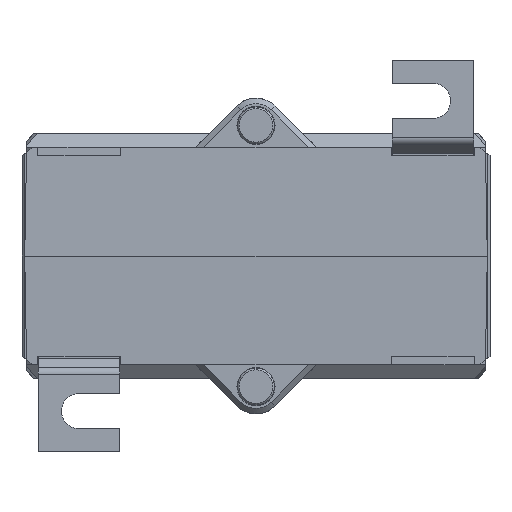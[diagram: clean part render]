
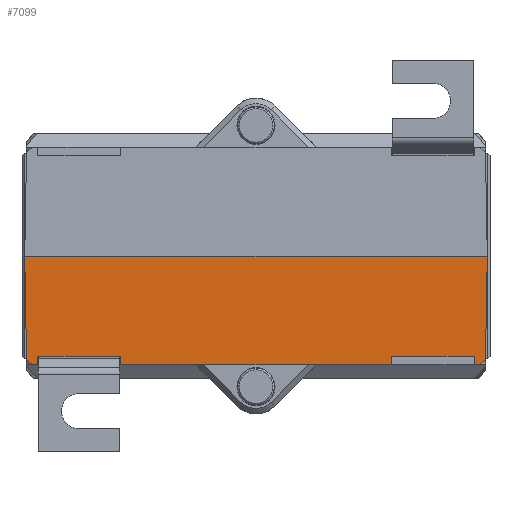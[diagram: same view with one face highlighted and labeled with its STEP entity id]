
A CAD part, front view. The second image highlights one B-rep face of the part: STEP entity #7099.
In plain terms, the highlighted planar face has unit normal (0, -1, -0.018) as drawn and (0, -1, 0.017) by its records, which use the part's own axes.
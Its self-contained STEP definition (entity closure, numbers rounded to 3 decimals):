
#5634 = VERTEX_POINT ( 'NONE', #27852 ) ;
#5694 = EDGE_CURVE ( 'NONE', #5699, #5634, #28081, .T. ) ;
#5699 = VERTEX_POINT ( 'NONE', #27846 ) ;
#6303 = VERTEX_POINT ( 'NONE', #30248 ) ;
#6317 = VERTEX_POINT ( 'NONE', #30269 ) ;
#6321 = EDGE_CURVE ( 'NONE', #6303, #5634, #30392, .T. ) ;
#6359 = EDGE_CURVE ( 'NONE', #6317, #5699, #30517, .T. ) ;
#6981 = VERTEX_POINT ( 'NONE', #32678 ) ;
#7044 = VERTEX_POINT ( 'NONE', #32774 ) ;
#7045 = EDGE_CURVE ( 'NONE', #7054, #7044, #32827, .T. ) ;
#7054 = VERTEX_POINT ( 'NONE', #32838 ) ;
#7057 = EDGE_CURVE ( 'NONE', #6981, #7059, #32829, .T. ) ;
#7059 = VERTEX_POINT ( 'NONE', #32878 ) ;
#7071 = ORIENTED_EDGE ( 'NONE', *, *, #7075, .F. ) ;
#7072 = ORIENTED_EDGE ( 'NONE', *, *, #7160, .F. ) ;
#7073 = EDGE_CURVE ( 'NONE', #7157, #7159, #32848, .T. ) ;
#7075 = EDGE_CURVE ( 'NONE', #7059, #7159, #32914, .T. ) ;
#7079 = ORIENTED_EDGE ( 'NONE', *, *, #7057, .F. ) ;
#7080 = ORIENTED_EDGE ( 'NONE', *, *, #6321, .F. ) ;
#7082 = ORIENTED_EDGE ( 'NONE', *, *, #7090, .F. ) ;
#7083 = EDGE_CURVE ( 'NONE', #7110, #7112, #32900, .T. ) ;
#7084 = ORIENTED_EDGE ( 'NONE', *, *, #6359, .T. ) ;
#7086 = EDGE_CURVE ( 'NONE', #7103, #6317, #32888, .T. ) ;
#7087 = ORIENTED_EDGE ( 'NONE', *, *, #7086, .T. ) ;
#7088 = ORIENTED_EDGE ( 'NONE', *, *, #7156, .T. ) ;
#7089 = EDGE_CURVE ( 'NONE', #7103, #7110, #32886, .T. ) ;
#7090 = EDGE_CURVE ( 'NONE', #7112, #7116, #32915, .T. ) ;
#7091 = ORIENTED_EDGE ( 'NONE', *, *, #7097, .F. ) ;
#7097 = EDGE_CURVE ( 'NONE', #7116, #6981, #32889, .T. ) ;
#7098 = ORIENTED_EDGE ( 'NONE', *, *, #7089, .F. ) ;
#7099 = ADVANCED_FACE ( 'NONE', ( #32943 ), #32952, .T. ) ;
#7100 = ORIENTED_EDGE ( 'NONE', *, *, #7083, .F. ) ;
#7101 = EDGE_LOOP ( 'NONE', ( #7091, #7082, #7100, #7098, #7087, #7084, #7155, #7080, #7088, #7154, #7072, #7158, #7071, #7079 ) ) ;
#7103 = VERTEX_POINT ( 'NONE', #32953 ) ;
#7110 = VERTEX_POINT ( 'NONE', #32926 ) ;
#7112 = VERTEX_POINT ( 'NONE', #32996 ) ;
#7116 = VERTEX_POINT ( 'NONE', #32989 ) ;
#7154 = ORIENTED_EDGE ( 'NONE', *, *, #7045, .F. ) ;
#7155 = ORIENTED_EDGE ( 'NONE', *, *, #5694, .T. ) ;
#7156 = EDGE_CURVE ( 'NONE', #6303, #7044, #33096, .T. ) ;
#7157 = VERTEX_POINT ( 'NONE', #33091 ) ;
#7158 = ORIENTED_EDGE ( 'NONE', *, *, #7073, .T. ) ;
#7159 = VERTEX_POINT ( 'NONE', #33089 ) ;
#7160 = EDGE_CURVE ( 'NONE', #7157, #7054, #33083, .T. ) ;
#27846 = CARTESIAN_POINT ( 'NONE',  ( -42.5, -43.25, 0. ) ) ;
#27852 = CARTESIAN_POINT ( 'NONE',  ( 42.5, -43.25, 0. ) ) ;
#28081 = LINE ( 'NONE', #28095, #28094 ) ;
#28093 = DIRECTION ( 'NONE',  ( 1., 0., 0. ) ) ;
#28094 = VECTOR ( 'NONE', #28093, 1000. ) ;
#28095 = CARTESIAN_POINT ( 'NONE',  ( -42.5, -43.25, 0. ) ) ;
#30248 = CARTESIAN_POINT ( 'NONE',  ( 42.168, -42.918, 19. ) ) ;
#30269 = CARTESIAN_POINT ( 'NONE',  ( -42.168, -42.918, 19. ) ) ;
#30356 = DIRECTION ( 'NONE',  ( 0.017, -0.017, -1. ) ) ;
#30358 = VECTOR ( 'NONE', #30356, 1000. ) ;
#30391 = CARTESIAN_POINT ( 'NONE',  ( 42.47, -43.22, 1.71 ) ) ;
#30392 = LINE ( 'NONE', #30391, #30358 ) ;
#30517 = LINE ( 'NONE', #30606, #30605 ) ;
#30604 = DIRECTION ( 'NONE',  ( -0.017, -0.017, -1. ) ) ;
#30605 = VECTOR ( 'NONE', #30604, 1000. ) ;
#30606 = CARTESIAN_POINT ( 'NONE',  ( -42.5, -43.25, 0. ) ) ;
#32678 = CARTESIAN_POINT ( 'NONE',  ( -24.878, -42.901, 20. ) ) ;
#32774 = CARTESIAN_POINT ( 'NONE',  ( 41.133, -42.901, 20. ) ) ;
#32814 = VECTOR ( 'NONE', #32880, 1000. ) ;
#32815 = CARTESIAN_POINT ( 'NONE',  ( -42.5, -42.901, 20. ) ) ;
#32821 = DIRECTION ( 'NONE',  ( 1., 0., 0. ) ) ;
#32822 = VECTOR ( 'NONE', #32821, 1000. ) ;
#32823 = CARTESIAN_POINT ( 'NONE',  ( -42.5, -42.901, 20. ) ) ;
#32827 = LINE ( 'NONE', #32823, #32822 ) ;
#32829 = LINE ( 'NONE', #32815, #32814 ) ;
#32838 = CARTESIAN_POINT ( 'NONE',  ( 40.122, -42.901, 20. ) ) ;
#32847 = CARTESIAN_POINT ( 'NONE',  ( -42.5, -42.929, 18.4 ) ) ;
#32848 = LINE ( 'NONE', #32847, #32917 ) ;
#32878 = CARTESIAN_POINT ( 'NONE',  ( 24.878, -42.901, 20. ) ) ;
#32880 = DIRECTION ( 'NONE',  ( 1., 0., 0. ) ) ;
#32881 = CARTESIAN_POINT ( 'NONE',  ( -42.5, -42.929, 18.4 ) ) ;
#32882 = CARTESIAN_POINT ( 'NONE',  ( -42.5, -42.901, 20. ) ) ;
#32883 = DIRECTION ( 'NONE',  ( -0.719, -0.012, -0.695 ) ) ;
#32884 = VECTOR ( 'NONE', #32883, 1000. ) ;
#32885 = CARTESIAN_POINT ( 'NONE',  ( -40.281, -42.887, 20.822 ) ) ;
#32886 = LINE ( 'NONE', #32882, #32904 ) ;
#32888 = LINE ( 'NONE', #32885, #32884 ) ;
#32889 = LINE ( 'NONE', #32942, #32941 ) ;
#32890 = DIRECTION ( 'NONE',  ( 0.009, -0.017, -1. ) ) ;
#32891 = VECTOR ( 'NONE', #32890, 1000. ) ;
#32899 = CARTESIAN_POINT ( 'NONE',  ( -39.948, -43.25, 0.022 ) ) ;
#32900 = LINE ( 'NONE', #32899, #32891 ) ;
#32903 = DIRECTION ( 'NONE',  ( 1., 0., 0. ) ) ;
#32904 = VECTOR ( 'NONE', #32903, 1000. ) ;
#32911 = DIRECTION ( 'NONE',  ( 0.009, -0.017, -1. ) ) ;
#32912 = VECTOR ( 'NONE', #32911, 1000. ) ;
#32913 = CARTESIAN_POINT ( 'NONE',  ( 25.047, -43.24, 0.589 ) ) ;
#32914 = LINE ( 'NONE', #32913, #32912 ) ;
#32915 = LINE ( 'NONE', #32881, #32955 ) ;
#32916 = DIRECTION ( 'NONE',  ( -1., 0., 0. ) ) ;
#32917 = VECTOR ( 'NONE', #32916, 1000. ) ;
#32926 = CARTESIAN_POINT ( 'NONE',  ( -40.122, -42.901, 20. ) ) ;
#32933 = DIRECTION ( 'NONE',  ( 0., -0.017, -1. ) ) ;
#32934 = DIRECTION ( 'NONE',  ( 0., -1., 0.017 ) ) ;
#32939 = CARTESIAN_POINT ( 'NONE',  ( -42.5, -43.25, 0. ) ) ;
#32940 = DIRECTION ( 'NONE',  ( 0.009, 0.017, 1. ) ) ;
#32941 = VECTOR ( 'NONE', #32940, 1000. ) ;
#32942 = CARTESIAN_POINT ( 'NONE',  ( -25.054, -43.253, -0.152 ) ) ;
#32943 = FACE_OUTER_BOUND ( 'NONE', #7101, .T. ) ;
#32948 = AXIS2_PLACEMENT_3D ( 'NONE', #32939, #32934, #32933 ) ;
#32952 = PLANE ( 'NONE',  #32948 ) ;
#32953 = CARTESIAN_POINT ( 'NONE',  ( -41.133, -42.901, 20. ) ) ;
#32954 = DIRECTION ( 'NONE',  ( 1., 0., 0. ) ) ;
#32955 = VECTOR ( 'NONE', #32954, 1000. ) ;
#32989 = CARTESIAN_POINT ( 'NONE',  ( -24.892, -42.929, 18.4 ) ) ;
#32996 = CARTESIAN_POINT ( 'NONE',  ( -40.108, -42.929, 18.4 ) ) ;
#33035 = CARTESIAN_POINT ( 'NONE',  ( 40.281, -42.887, 20.822 ) ) ;
#33080 = DIRECTION ( 'NONE',  ( 0.009, 0.017, 1. ) ) ;
#33081 = VECTOR ( 'NONE', #33080, 1000. ) ;
#33082 = CARTESIAN_POINT ( 'NONE',  ( 39.941, -43.263, -0.719 ) ) ;
#33083 = LINE ( 'NONE', #33082, #33081 ) ;
#33087 = DIRECTION ( 'NONE',  ( -0.719, 0.012, 0.695 ) ) ;
#33088 = VECTOR ( 'NONE', #33087, 1000. ) ;
#33089 = CARTESIAN_POINT ( 'NONE',  ( 24.892, -42.929, 18.4 ) ) ;
#33091 = CARTESIAN_POINT ( 'NONE',  ( 40.108, -42.929, 18.4 ) ) ;
#33096 = LINE ( 'NONE', #33035, #33088 ) ;
